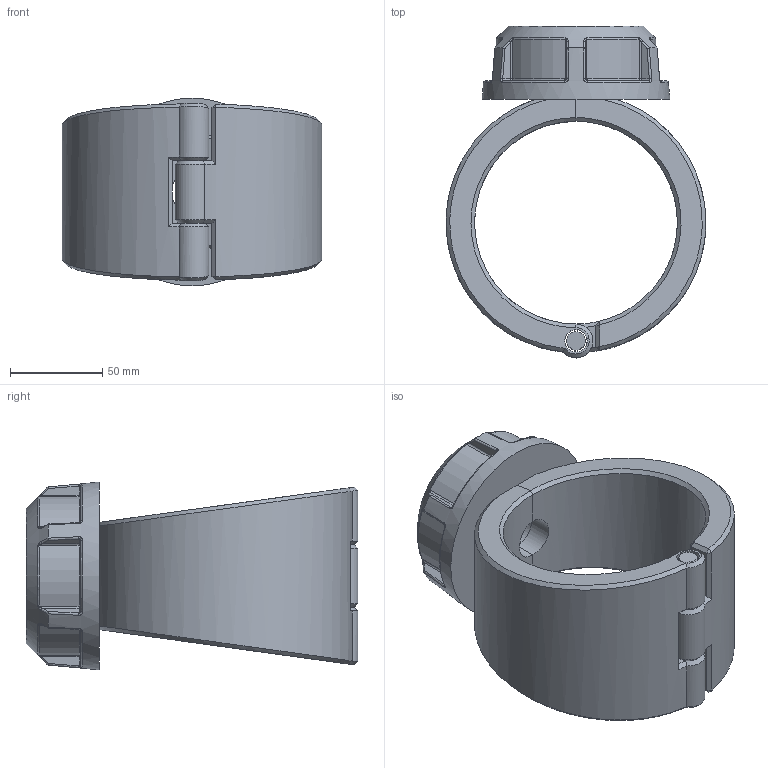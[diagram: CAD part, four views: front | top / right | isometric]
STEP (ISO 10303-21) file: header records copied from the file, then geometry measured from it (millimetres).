
FILE_DESCRIPTION(/* description */ ('Plassadle Threaded 110x1 1/2'''''),/* implementation_level */ '2;1');
FILE_NAME(/* name */ 'C:\Users\comp2\Dropbox\99-16-3568-Processing\Mechanical Fittings\16300\stp\163000110015.stp',/* time_stamp */ '2022-02-03T11:48:05+00:00',/* author */ ('comp2'),/* organization */ (''),/* preprocessor_version */ 'ST-DEVELOPER v17.2',/* originating_system */ 'Autodesk Inventor 2019',/* authorisation */ '');
FILE_SCHEMA (('AUTOMOTIVE_DESIGN { 1 0 10303 214 3 1 1 }'));
Length unit declared in the file: millimetre
Products named in the file (1): 163000110015
Bounding box: 141 x 180 x 102 mm (x, y, z)
Volume: 651191.4 mm3; surface area: 111750.3 mm2
Topology: 4 solids, 4 shells, 203 faces, 486 edges, 293 vertices
Faces by surface type: bspline 58, plane 53, cylinder 47, torus 18, cone 15, sphere 12
Full cylindrical faces by diameter (mm): 10.12 x1, 12.12 x3, 22.422 x1, 38.118 x1, 44.845 x1, 67.267 x1
Entity records: 8244 total; most frequent: CARTESIAN_POINT 3897, ORIENTED_EDGE 972, DIRECTION 781, EDGE_CURVE 486, AXIS2_PLACEMENT_3D 330, VERTEX_POINT 293, EDGE_LOOP 213, FACE_OUTER_BOUND 203
